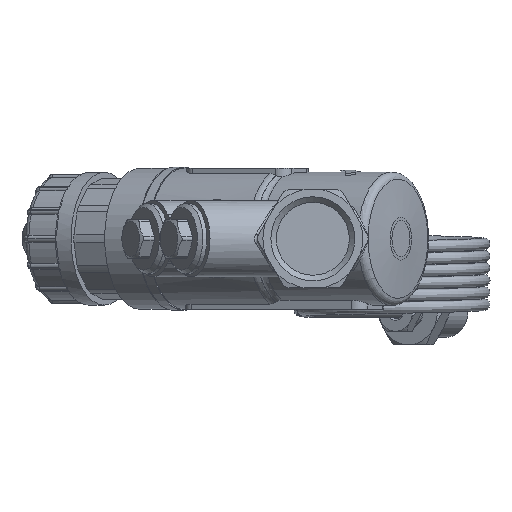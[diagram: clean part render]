
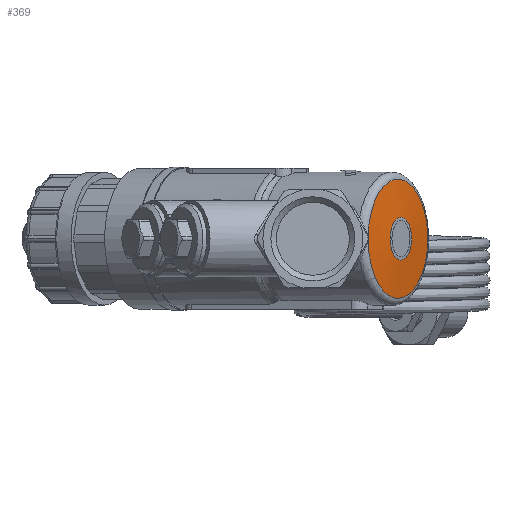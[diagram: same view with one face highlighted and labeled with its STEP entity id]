
A CAD part, left-side view. The second image highlights one B-rep face of the part: STEP entity #369.
In plain terms, the highlighted conical face has half-angle 85 degrees and reference radius 10.358 mm.
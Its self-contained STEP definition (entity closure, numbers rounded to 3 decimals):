
#369=ADVANCED_FACE('',(#10928,#10930),#10932,.T.);
#10928=FACE_OUTER_BOUND('',#10929,.T.);
#10929=EDGE_LOOP('',(#18521));
#10930=FACE_BOUND('',#10931,.T.);
#10931=EDGE_LOOP('',(#18522,#18523,#18524));
#10932=CONICAL_SURFACE('',#10933,10.358,1.484);
#10933=AXIS2_PLACEMENT_3D('',#10934,#10935,#10936);
#10934=CARTESIAN_POINT('',(-12.763,-22.106,0.));
#10935=DIRECTION('',(0.5,0.866,0.));
#10936=DIRECTION('',(0.866,-0.5,0.));
#18521=ORIENTED_EDGE('',*,*,#21221,.F.);
#18522=ORIENTED_EDGE('',*,*,#21222,.F.);
#18523=ORIENTED_EDGE('',*,*,#20892,.T.);
#18524=ORIENTED_EDGE('',*,*,#21223,.F.);
#20892=EDGE_CURVE('',#22908,#22906,#22909,.T.);
#21221=EDGE_CURVE('',#23450,#23450,#23451,.T.);
#21222=EDGE_CURVE('',#22908,#23452,#23453,.F.);
#21223=EDGE_CURVE('',#23452,#22906,#23454,.F.);
#22906=VERTEX_POINT('',#30011);
#22908=VERTEX_POINT('',#30018);
#22909=CIRCLE('',#30019,15.233);
#23450=VERTEX_POINT('',#32562);
#23451=CIRCLE('',#32563,5.483);
#23452=VERTEX_POINT('',#32567);
#23453=B_SPLINE_CURVE_WITH_KNOTS('',3,
(#32568,#32569,#32570,#32571,#32572,#32573,#32574,#32575,#32576,#32577,#32578,#32579,
#32580,#32581,#32582),
.UNSPECIFIED.,.F.,.F.,
(4,1,1,1,1,1,1,1,1,1,1,1,4),
(0.,0.288,0.485,0.586,0.628,0.668,
0.721,0.782,0.843,0.889,0.938,
0.973,1.),
.UNSPECIFIED.);
#23454=B_SPLINE_CURVE_WITH_KNOTS('',3,
(#32583,#32584,#32585,#32586,#32587,#32588,#32589,#32590),
.UNSPECIFIED.,.F.,.F.,
(4,1,1,1,1,4),
(0.,0.262,0.489,0.693,0.863,1.),
.UNSPECIFIED.);
#30011=CARTESIAN_POINT('',(-25.73,-14.127,0.656));
#30018=CARTESIAN_POINT('',(-25.73,-14.127,-0.656));
#30019=AXIS2_PLACEMENT_3D('',#30020,#30021,#30022);
#30020=CARTESIAN_POINT('',(-12.549,-21.736,0.));
#30021=DIRECTION('',(-0.5,-0.866,0.));
#30022=DIRECTION('',(-0.865,0.5,-0.043));
#32562=CARTESIAN_POINT('',(-17.725,-19.733,0.));
#32563=AXIS2_PLACEMENT_3D('',#32564,#32565,#32566);
#32564=CARTESIAN_POINT('',(-12.976,-22.475,0.));
#32565=DIRECTION('',(-0.5,-0.866,0.));
#32566=DIRECTION('',(-0.866,0.5,0.));
#32567=CARTESIAN_POINT('',(-25.606,-14.215,0.));
#32568=CARTESIAN_POINT('',(-25.606,-14.215,0.));
#32569=CARTESIAN_POINT('',(-25.606,-14.215,-0.068));
#32570=CARTESIAN_POINT('',(-25.613,-14.21,-0.182));
#32571=CARTESIAN_POINT('',(-25.634,-14.195,-0.317));
#32572=CARTESIAN_POINT('',(-25.65,-14.184,-0.394));
#32573=CARTESIAN_POINT('',(-25.66,-14.177,-0.435));
#32574=CARTESIAN_POINT('',(-25.667,-14.171,-0.465));
#32575=CARTESIAN_POINT('',(-25.677,-14.164,-0.499));
#32576=CARTESIAN_POINT('',(-25.688,-14.156,-0.536));
#32577=CARTESIAN_POINT('',(-25.698,-14.149,-0.567));
#32578=CARTESIAN_POINT('',(-25.707,-14.143,-0.595));
#32579=CARTESIAN_POINT('',(-25.716,-14.136,-0.619));
#32580=CARTESIAN_POINT('',(-25.724,-14.131,-0.64));
#32581=CARTESIAN_POINT('',(-25.728,-14.128,-0.651));
#32582=CARTESIAN_POINT('',(-25.73,-14.127,-0.656));
#32583=CARTESIAN_POINT('',(-25.73,-14.127,0.656));
#32584=CARTESIAN_POINT('',(-25.712,-14.14,0.602));
#32585=CARTESIAN_POINT('',(-25.674,-14.166,0.501));
#32586=CARTESIAN_POINT('',(-25.639,-14.191,0.35));
#32587=CARTESIAN_POINT('',(-25.618,-14.206,0.217));
#32588=CARTESIAN_POINT('',(-25.608,-14.213,0.101));
#32589=CARTESIAN_POINT('',(-25.606,-14.215,0.031));
#32590=CARTESIAN_POINT('',(-25.606,-14.215,0.));
